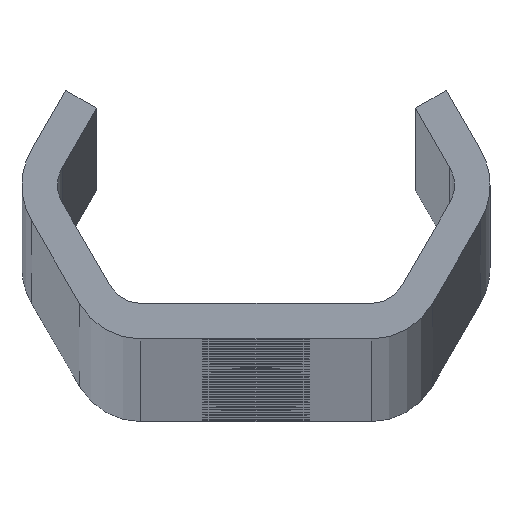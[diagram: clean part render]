
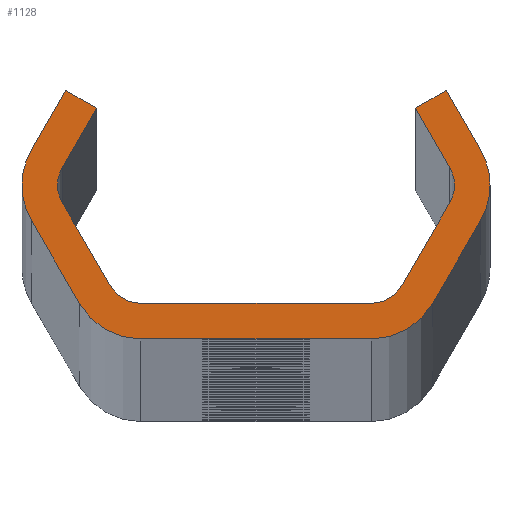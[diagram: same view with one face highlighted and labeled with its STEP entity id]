
A CAD part, top view. The second image highlights one B-rep face of the part: STEP entity #1128.
In plain terms, the highlighted planar face has unit normal (0, 0, 1).
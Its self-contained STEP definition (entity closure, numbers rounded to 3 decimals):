
#1128=ADVANCED_FACE('NONE',(#3176),#3177,.F.);
#3176=FACE_OUTER_BOUND('',#10500,.T.);
#3177=PLANE('',#10501);
#10500=EDGE_LOOP('',(#21342,#21343,#21344,#21345,#21346,#21347,#21348,#21349,#21350,#21351,#21352,#21353,#21354,#21355,#21356,#21357,#21358,#21359,#21360,#21361,#21362,#21363,#21364,#21365));
#10501=AXIS2_PLACEMENT_3D('',#21366,#21367,#21368);
#21342=ORIENTED_EDGE('',*,*,#28477,.T.);
#21343=ORIENTED_EDGE('',*,*,#28538,.T.);
#21344=ORIENTED_EDGE('',*,*,#27900,.T.);
#21345=ORIENTED_EDGE('',*,*,#28479,.T.);
#21346=ORIENTED_EDGE('',*,*,#28539,.T.);
#21347=ORIENTED_EDGE('',*,*,#28483,.T.);
#21348=ORIENTED_EDGE('',*,*,#28540,.T.);
#21349=ORIENTED_EDGE('',*,*,#27907,.T.);
#21350=ORIENTED_EDGE('',*,*,#28541,.T.);
#21351=ORIENTED_EDGE('',*,*,#27383,.T.);
#21352=ORIENTED_EDGE('',*,*,#27910,.T.);
#21353=ORIENTED_EDGE('',*,*,#27916,.T.);
#21354=ORIENTED_EDGE('',*,*,#27919,.T.);
#21355=ORIENTED_EDGE('',*,*,#27897,.T.);
#21356=ORIENTED_EDGE('',*,*,#28542,.T.);
#21357=ORIENTED_EDGE('',*,*,#27921,.T.);
#21358=ORIENTED_EDGE('',*,*,#28543,.T.);
#21359=ORIENTED_EDGE('',*,*,#27928,.T.);
#21360=ORIENTED_EDGE('',*,*,#28544,.T.);
#21361=ORIENTED_EDGE('',*,*,#28464,.T.);
#21362=ORIENTED_EDGE('',*,*,#28545,.T.);
#21363=ORIENTED_EDGE('',*,*,#27378,.T.);
#21364=ORIENTED_EDGE('',*,*,#28467,.T.);
#21365=ORIENTED_EDGE('',*,*,#28473,.T.);
#21366=CARTESIAN_POINT('',(0.0,0.0,4000.0));
#21367=DIRECTION('',(0.0,0.0,-1.0));
#21368=DIRECTION('',(0.0,-1.0,0.0));
#27378=EDGE_CURVE('NONE',#30488,#30492,#30494,.T.);
#27383=EDGE_CURVE('NONE',#30497,#30501,#30503,.T.);
#27897=EDGE_CURVE('NONE',#31428,#31426,#31429,.T.);
#27900=EDGE_CURVE('NONE',#31432,#31433,#31434,.T.);
#27907=EDGE_CURVE('NONE',#31446,#31444,#31447,.T.);
#27910=EDGE_CURVE('NONE',#30501,#31450,#31451,.T.);
#27916=EDGE_CURVE('NONE',#31450,#31458,#31460,.T.);
#27919=EDGE_CURVE('NONE',#31458,#31428,#31463,.T.);
#27921=EDGE_CURVE('NONE',#31465,#31466,#31467,.T.);
#27928=EDGE_CURVE('NONE',#31479,#31477,#31480,.T.);
#28464=EDGE_CURVE('NONE',#32474,#32472,#32475,.T.);
#28467=EDGE_CURVE('NONE',#30492,#32478,#32479,.T.);
#28473=EDGE_CURVE('NONE',#32478,#32486,#32488,.T.);
#28477=EDGE_CURVE('NONE',#32486,#32492,#32494,.T.);
#28479=EDGE_CURVE('NONE',#31433,#32496,#32497,.T.);
#28483=EDGE_CURVE('NONE',#32502,#32503,#32504,.T.);
#28538=EDGE_CURVE('NONE',#32492,#31432,#32561,.T.);
#28539=EDGE_CURVE('NONE',#32496,#32502,#32562,.T.);
#28540=EDGE_CURVE('NONE',#32503,#31446,#32563,.T.);
#28541=EDGE_CURVE('NONE',#31444,#30497,#32564,.T.);
#28542=EDGE_CURVE('NONE',#31426,#31465,#32565,.T.);
#28543=EDGE_CURVE('NONE',#31466,#31479,#32566,.T.);
#28544=EDGE_CURVE('NONE',#31477,#32474,#32567,.T.);
#28545=EDGE_CURVE('NONE',#32472,#30488,#32568,.T.);
#30488=VERTEX_POINT('',#35096);
#30492=VERTEX_POINT('NONE',#35101);
#30494=CIRCLE('',#35104,3.0);
#30497=VERTEX_POINT('',#35107);
#30501=VERTEX_POINT('NONE',#35112);
#30503=CIRCLE('',#35115,6.0);
#31426=VERTEX_POINT('NONE',#40688);
#31428=VERTEX_POINT('NONE',#40691);
#31429=CIRCLE('',#40692,3.0);
#31432=VERTEX_POINT('NONE',#40696);
#31433=VERTEX_POINT('NONE',#40697);
#31434=CIRCLE('',#40698,6.0);
#31444=VERTEX_POINT('NONE',#40711);
#31446=VERTEX_POINT('NONE',#40714);
#31447=LINE('',#40715,#40716);
#31450=VERTEX_POINT('NONE',#40720);
#31451=LINE('',#40721,#40722);
#31458=VERTEX_POINT('NONE',#40732);
#31460=LINE('',#40735,#40736);
#31463=LINE('',#40740,#40741);
#31465=VERTEX_POINT('NONE',#40743);
#31466=VERTEX_POINT('NONE',#40744);
#31467=LINE('',#40745,#40746);
#31477=VERTEX_POINT('NONE',#40760);
#31479=VERTEX_POINT('NONE',#40763);
#31480=LINE('',#40764,#40765);
#32472=VERTEX_POINT('NONE',#44359);
#32474=VERTEX_POINT('NONE',#44362);
#32475=LINE('',#44363,#44364);
#32478=VERTEX_POINT('NONE',#44368);
#32479=LINE('',#44369,#44370);
#32486=VERTEX_POINT('NONE',#44380);
#32488=LINE('',#44383,#44384);
#32492=VERTEX_POINT('NONE',#44389);
#32494=LINE('',#44392,#44393);
#32496=VERTEX_POINT('NONE',#44395);
#32497=LINE('',#44396,#44397);
#32502=VERTEX_POINT('NONE',#44404);
#32503=VERTEX_POINT('NONE',#44405);
#32504=LINE('',#44406,#44407);
#32561=CIRCLE('',#44467,6.0);
#32562=CIRCLE('',#44468,6.0);
#32563=CIRCLE('',#44469,6.0);
#32564=CIRCLE('',#44470,6.0);
#32565=CIRCLE('',#44471,3.0);
#32566=CIRCLE('',#44472,3.0);
#32567=CIRCLE('',#44473,3.0);
#32568=CIRCLE('',#44474,3.0);
#35096=CARTESIAN_POINT('',(-16.764,0.,4000.0));
#35101=CARTESIAN_POINT('',(-16.362,1.5,4000.0));
#35104=AXIS2_PLACEMENT_3D('',#52855,#52856,#52857);
#35107=CARTESIAN_POINT('',(19.764,0.,4000.0));
#35112=CARTESIAN_POINT('',(18.96,3.,4000.0));
#35115=AXIS2_PLACEMENT_3D('',#52863,#52864,#52865);
#40688=CARTESIAN_POINT('',(16.764,0.,4000.0));
#40691=CARTESIAN_POINT('',(16.362,1.5,4000.0));
#40692=AXIS2_PLACEMENT_3D('',#53374,#53375,#53376);
#40696=CARTESIAN_POINT('',(-19.764,0.,4000.0));
#40697=CARTESIAN_POINT('',(-18.96,-3.,4000.0));
#40698=AXIS2_PLACEMENT_3D('',#53378,#53379,#53380);
#40711=CARTESIAN_POINT('',(18.96,-3.,4000.0));
#40714=CARTESIAN_POINT('',(14.919,-10.,4000.0));
#40715=CARTESIAN_POINT('',(20.692,0.,4000.0));
#40716=VECTOR('',#53388,1000.0);
#40720=CARTESIAN_POINT('',(16.074,8.,4000.0));
#40721=CARTESIAN_POINT('',(16.074,8.,4000.0));
#40722=VECTOR('',#53390,1000.0);
#40732=CARTESIAN_POINT('',(13.475,6.5,4000.0));
#40735=CARTESIAN_POINT('',(13.475,6.5,4000.0));
#40736=VECTOR('',#53395,1000.0);
#40740=CARTESIAN_POINT('',(17.228,0.,4000.0));
#40741=VECTOR('',#53397,1000.0);
#40743=CARTESIAN_POINT('',(16.362,-1.5,4000.0));
#40744=CARTESIAN_POINT('',(12.321,-8.5,4000.0));
#40745=CARTESIAN_POINT('',(11.455,-10.0,4000.0));
#40746=VECTOR('',#53398,1000.0);
#40760=CARTESIAN_POINT('',(-9.723,-10.0,4000.0));
#40763=CARTESIAN_POINT('',(9.723,-10.0,4000.0));
#40764=CARTESIAN_POINT('',(-11.455,-10.0,4000.0));
#40765=VECTOR('',#53404,1000.0);
#44359=CARTESIAN_POINT('',(-16.362,-1.5,4000.0));
#44362=CARTESIAN_POINT('',(-12.321,-8.5,4000.0));
#44363=CARTESIAN_POINT('',(-17.228,0.,4000.0));
#44364=VECTOR('',#53987,1000.0);
#44368=CARTESIAN_POINT('',(-13.475,6.5,4000.0));
#44369=CARTESIAN_POINT('',(-13.475,6.5,4000.0));
#44370=VECTOR('',#53989,1000.0);
#44380=CARTESIAN_POINT('',(-16.074,8.,4000.0));
#44383=CARTESIAN_POINT('',(-13.475,6.5,4000.0));
#44384=VECTOR('',#53994,1000.0);
#44389=CARTESIAN_POINT('',(-18.96,3.,4000.0));
#44392=CARTESIAN_POINT('',(-16.074,8.,4000.0));
#44393=VECTOR('',#53997,1000.0);
#44395=CARTESIAN_POINT('',(-14.919,-10.,4000.0));
#44396=CARTESIAN_POINT('',(-20.692,0.,4000.0));
#44397=VECTOR('',#53998,1000.0);
#44404=CARTESIAN_POINT('',(-9.723,-13.0,4000.0));
#44405=CARTESIAN_POINT('',(9.723,-13.0,4000.0));
#44406=CARTESIAN_POINT('',(-13.187,-13.0,4000.0));
#44407=VECTOR('',#54001,1000.0);
#44467=AXIS2_PLACEMENT_3D('',#54155,#54156,#54157);
#44468=AXIS2_PLACEMENT_3D('',#54158,#54159,#54160);
#44469=AXIS2_PLACEMENT_3D('',#54161,#54162,#54163);
#44470=AXIS2_PLACEMENT_3D('',#54164,#54165,#54166);
#44471=AXIS2_PLACEMENT_3D('',#54167,#54168,#54169);
#44472=AXIS2_PLACEMENT_3D('',#54170,#54171,#54172);
#44473=AXIS2_PLACEMENT_3D('',#54173,#54174,#54175);
#44474=AXIS2_PLACEMENT_3D('',#54176,#54177,#54178);
#52855=CARTESIAN_POINT('',(-13.764,0.,4000.0));
#52856=DIRECTION('',(0.0,0.0,-1.0));
#52857=DIRECTION('',(-1.0,0.0,0.0));
#52863=CARTESIAN_POINT('',(13.764,0.,4000.0));
#52864=DIRECTION('',(0.0,0.0,1.0));
#52865=DIRECTION('',(-1.0,0.0,0.0));
#53374=CARTESIAN_POINT('',(13.764,0.,4000.0));
#53375=DIRECTION('',(0.0,0.0,-1.0));
#53376=DIRECTION('',(-1.0,0.0,0.0));
#53378=CARTESIAN_POINT('',(-13.764,0.,4000.0));
#53379=DIRECTION('',(0.0,0.0,1.0));
#53380=DIRECTION('',(-1.0,0.0,0.0));
#53388=DIRECTION('',(0.5,0.866,-0.0));
#53390=DIRECTION('',(-0.5,0.866,-0.0));
#53395=DIRECTION('',(-0.866,-0.5,-0.0));
#53397=DIRECTION('',(0.5,-0.866,-0.0));
#53398=DIRECTION('',(-0.5,-0.866,-0.0));
#53404=DIRECTION('',(-1.0,0.,-0.0));
#53987=DIRECTION('',(-0.5,0.866,-0.0));
#53989=DIRECTION('',(0.5,0.866,-0.0));
#53994=DIRECTION('',(-0.866,0.5,0.0));
#53997=DIRECTION('',(-0.5,-0.866,0.0));
#53998=DIRECTION('',(0.5,-0.866,0.0));
#54001=DIRECTION('',(1.0,0.0,0.0));
#54155=CARTESIAN_POINT('',(-13.764,0.,4000.0));
#54156=DIRECTION('',(0.0,0.0,1.0));
#54157=DIRECTION('',(-1.0,0.,0.0));
#54158=CARTESIAN_POINT('',(-9.723,-7.0,4000.0));
#54159=DIRECTION('',(0.0,0.0,1.0));
#54160=DIRECTION('',(-1.0,0.0,0.0));
#54161=CARTESIAN_POINT('',(9.723,-7.0,4000.0));
#54162=DIRECTION('',(0.0,0.0,1.0));
#54163=DIRECTION('',(-1.0,0.,0.0));
#54164=CARTESIAN_POINT('',(13.764,0.,4000.0));
#54165=DIRECTION('',(0.0,0.0,1.0));
#54166=DIRECTION('',(-1.0,0.0,0.0));
#54167=CARTESIAN_POINT('',(13.764,0.,4000.0));
#54168=DIRECTION('',(0.0,0.0,-1.0));
#54169=DIRECTION('',(-1.0,0.0,0.0));
#54170=CARTESIAN_POINT('',(9.723,-7.0,4000.0));
#54171=DIRECTION('',(0.0,0.0,-1.0));
#54172=DIRECTION('',(-1.0,0.0,0.0));
#54173=CARTESIAN_POINT('',(-9.723,-7.0,4000.0));
#54174=DIRECTION('',(0.0,0.0,-1.0));
#54175=DIRECTION('',(-1.0,0.0,0.0));
#54176=CARTESIAN_POINT('',(-13.764,0.,4000.0));
#54177=DIRECTION('',(0.0,0.0,-1.0));
#54178=DIRECTION('',(-1.0,0.0,0.0));
